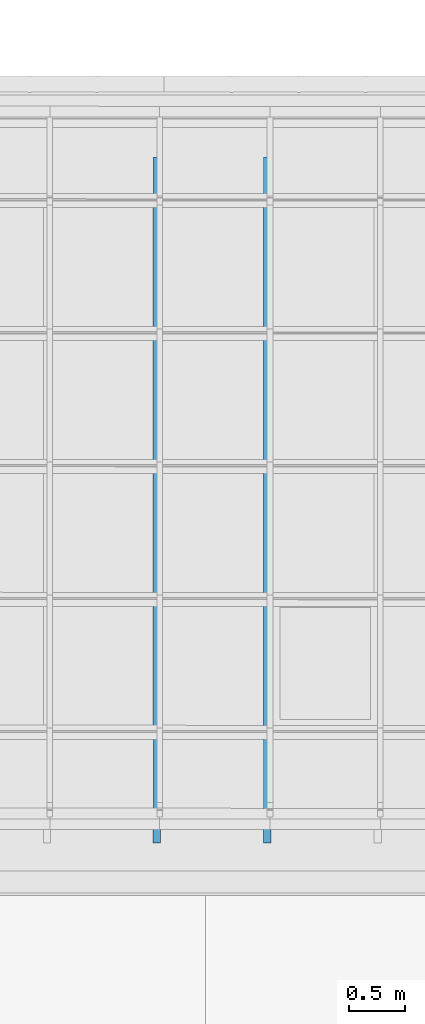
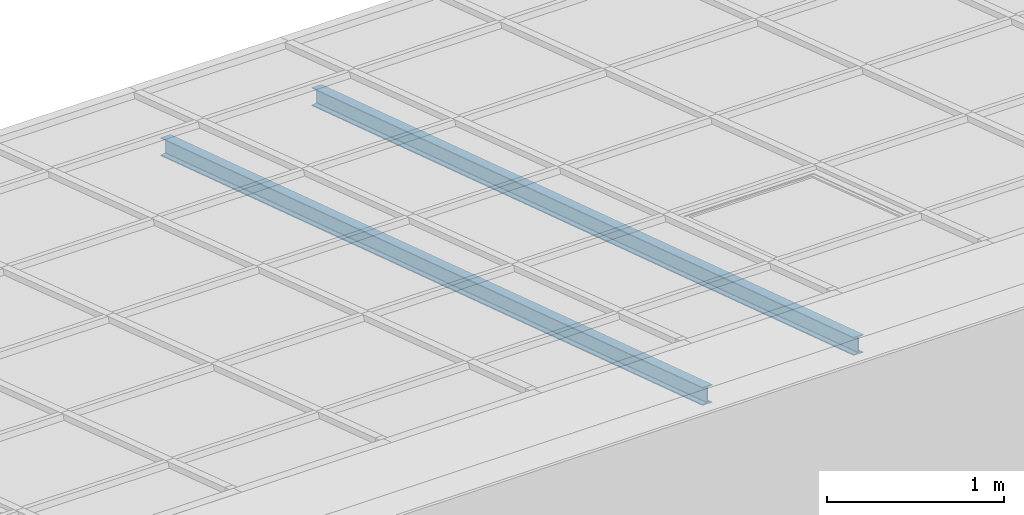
# One storey, part 7 of 47: 2 beams.
"""IFC2X3 building model written with IfcOpenShell, lengths in millimetres."""

from ifc_helpers import new_model, entity, si_unit, converted_unit, derived_unit, money_unit, point, direction, frame, frame_2d, origin_with_axes, place, context, subcontext, project, spatial, polyline, circle_curve, parameter, trimmed, segment, composite_curve, outline, extrude, clip, halfspace, material, type_object, element, save


model = new_model("IFC2X3")

# Units and contexts
model_context = context("Model", 3, precision=1e-05, world=origin_with_axes(), true_north=direction((0.0, 1.0)))
body_context = subcontext(model_context, "Body", "Model", "MODEL_VIEW")
ifc_project = project(units=[si_unit("LENGTHUNIT", "METRE", prefix="MILLI"), si_unit("AREAUNIT", "SQUARE_METRE"), si_unit("VOLUMEUNIT", "CUBIC_METRE"), converted_unit("PLANEANGLEUNIT", "DEGREE", entity("IfcPlaneAngleMeasure", 0.0174532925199), si_unit("PLANEANGLEUNIT", "RADIAN"), dimensions=[0, 0, 0, 0, 0, 0, 0]), si_unit("SOLIDANGLEUNIT", "STERADIAN"), money_unit("EUR"), converted_unit("TIMEUNIT", "Year", entity("IfcTimeMeasure", 31556926.0), si_unit("TIMEUNIT", "SECOND"), dimensions=[0, 0, 1, 0, 0, 0, 0]), si_unit("MASSUNIT", "GRAM", prefix="KILO"), si_unit("THERMODYNAMICTEMPERATUREUNIT", "DEGREE_CELSIUS"), si_unit("LUMINOUSINTENSITYUNIT", "LUMEN"), si_unit("ENERGYUNIT", "JOULE", prefix="MEGA"), derived_unit("THERMALCONDUCTANCEUNIT", [(si_unit("POWERUNIT", "WATT"), 1), (si_unit("LENGTHUNIT", "METRE"), -1), (si_unit("THERMODYNAMICTEMPERATUREUNIT", "KELVIN"), -1)]), derived_unit("SPECIFICHEATCAPACITYUNIT", [(si_unit("ENERGYUNIT", "JOULE"), 1), (si_unit("MASSUNIT", "GRAM", prefix="KILO"), -1), (si_unit("THERMODYNAMICTEMPERATUREUNIT", "KELVIN"), -1)]), derived_unit("MASSDENSITYUNIT", [(si_unit("MASSUNIT", "GRAM", prefix="KILO"), 1), (si_unit("VOLUMEUNIT", "CUBIC_METRE"), -1)])], contexts=[model_context])

# Site, building, storey
site_placement = place(None, origin_with_axes())
site = spatial("IfcSite", under=ifc_project, at=site_placement, Name="Site", CompositionType="ELEMENT")
building_placement = place(site_placement, origin_with_axes())
building = spatial("IfcBuilding", under=site, at=building_placement, Name="Building", CompositionType="ELEMENT")
storey_placement = place(building_placement, frame((0.0, 0.0, 6000.0), z_axis=(0.0, 0.0, 1.0), x_axis=(1.0, 0.0, 0.0)))
storey = spatial("IfcBuildingStorey", under=building, at=storey_placement, Name="KATUSEPLAAN", CompositionType="ELEMENT", Elevation=6000.0)

# Beams
ifc_material = material(Name="Teras (1)")
beam_type = type_object("IfcBeamType", Name="IPE 120", PredefinedType="NOTDEFINED")
beam_1_placement = place(storey_placement, frame((76023.081763, 46947.8063411, 711.763952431), z_axis=(0.0, 0.0, 1.0), x_axis=(-1.0, 0.0, 0.0)))
element("IfcBeam", 1, at=beam_1_placement, inside=storey, type_object=beam_type, material=ifc_material, Name="I Joist - Steel", ObjectType="I Joist - Steel 64 x 120", context=body_context, shape_type="Clipping", body=[
    clip(clip(extrude(outline(composite_curve([segment(polyline([(32.0018479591, -120.000212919), (32.0018479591, -117.505222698)]), True, "CONTINUOUS"), segment(trimmed(circle_curve(frame_2d((27.3321376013, -117.498683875), x_axis=(0.999999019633, -0.00140026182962)), 4.66971493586), [point((32.0018479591, -117.505222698)), parameter(0.0)], [point((31.7461003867, -115.974488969)), parameter(19.1306436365)], True, "CARTESIAN"), True, "CONTINUOUS"), segment(trimmed(circle_curve(frame_2d((27.8471066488, -117.309508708), x_axis=(0.94607823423, 0.323938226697)), 4.12121703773), [point((31.7461003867, -115.974488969)), parameter(0.0)], [point((31.017792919, -114.676795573)), parameter(20.802576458)], True, "CARTESIAN"), True, "CONTINUOUS"), segment(trimmed(circle_curve(frame_2d((28.4090653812, -116.837495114), x_axis=(0.770140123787, 0.637874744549)), 3.38734141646), [point((31.017792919, -114.676795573)), parameter(0.0)], [point((29.9278037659, -113.809704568)), parameter(23.7281511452)], True, "CARTESIAN"), True, "CONTINUOUS"), segment(trimmed(circle_curve(frame_2d((28.6333599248, -116.404648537), x_axis=(0.446378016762, 0.89484449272)), 2.89988259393), [point((29.9278037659, -113.809704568)), parameter(0.0)], [point((29.1110817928, -113.544386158)), parameter(17.0295027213)], True, "CARTESIAN"), True, "CONTINUOUS"), segment(polyline([(29.1110817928, -113.544386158), (5.24260801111, -109.566039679)]), True, "CONTINUOUS"), segment(trimmed(circle_curve(frame_2d((5.72032987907, -106.7057773), x_axis=(-0.446378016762, -0.89484449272)), 2.89988259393), [point((5.24260801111, -109.566039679)), parameter(17.0295027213)], [point((4.42588603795, -109.300721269)), parameter(0.0)], False, "CARTESIAN"), True, "CONTINUOUS"), segment(trimmed(circle_curve(frame_2d((5.94462442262, -106.272930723), x_axis=(-0.770140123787, -0.637874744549)), 3.38734141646), [point((4.42588603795, -109.300721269)), parameter(23.7281511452)], [point((3.33589688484, -108.433630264)), parameter(0.0)], False, "CARTESIAN"), True, "CONTINUOUS"), segment(trimmed(circle_curve(frame_2d((6.5065831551, -105.800917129), x_axis=(-0.94607823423, -0.323938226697)), 4.12121703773), [point((3.33589688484, -108.433630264)), parameter(20.802576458)], [point((2.60758941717, -107.135936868)), parameter(0.0)], False, "CARTESIAN"), True, "CONTINUOUS"), segment(trimmed(circle_curve(frame_2d((7.02155220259, -105.611741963), x_axis=(-0.999999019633, 0.00140026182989)), 4.66971493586), [point((2.60758941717, -107.135936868)), parameter(19.1306436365)], [point((2.35184184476, -105.605203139)), parameter(0.0)], False, "CARTESIAN"), True, "CONTINUOUS"), segment(polyline([(2.35184184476, -105.605203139), (2.35184184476, -14.3950097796)]), True, "CONTINUOUS"), segment(trimmed(circle_curve(frame_2d((7.02155220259, -14.3884709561), x_axis=(-0.945231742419, 0.326399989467)), 4.66971493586), [point((2.35184184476, -14.3950097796)), parameter(19.1306436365)], [point((2.60758941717, -12.8642760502)), parameter(0.0)], False, "CARTESIAN"), True, "CONTINUOUS"), segment(trimmed(circle_curve(frame_2d((6.5065831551, -14.1992957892), x_axis=(-0.769356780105, 0.638819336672)), 4.12121703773), [point((2.60758941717, -12.8642760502)), parameter(20.802576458)], [point((3.33589688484, -11.5665826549)), parameter(0.0)], False, "CARTESIAN"), True, "CONTINUOUS"), segment(trimmed(circle_curve(frame_2d((5.94462442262, -13.7272821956), x_axis=(-0.44835704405, 0.893854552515)), 3.38734141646), [point((3.33589688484, -11.5665826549)), parameter(23.7281511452)], [point((4.42588603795, -10.6994916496)), parameter(0.0)], False, "CARTESIAN"), True, "CONTINUOUS"), segment(trimmed(circle_curve(frame_2d((5.72032987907, -13.2944356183), x_axis=(-0.164738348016, 0.986337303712)), 2.89988259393), [point((4.42588603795, -10.6994916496)), parameter(17.0295027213)], [point((5.24260801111, -10.4341732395)), parameter(0.0)], False, "CARTESIAN"), True, "CONTINUOUS"), segment(polyline([(5.24260801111, -10.4341732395), (29.1110817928, -6.45582676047)]), True, "CONTINUOUS"), segment(trimmed(circle_curve(frame_2d((28.6333599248, -3.59556438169), x_axis=(0.164738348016, -0.986337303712)), 2.89988259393), [point((29.1110817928, -6.45582676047)), parameter(0.0)], [point((29.9278037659, -6.19050835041)), parameter(17.0295027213)], True, "CARTESIAN"), True, "CONTINUOUS"), segment(trimmed(circle_curve(frame_2d((28.4090653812, -3.16271780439), x_axis=(0.44835704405, -0.893854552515)), 3.38734141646), [point((29.9278037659, -6.19050835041)), parameter(0.0)], [point((31.017792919, -5.32341734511)), parameter(23.7281511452)], True, "CARTESIAN"), True, "CONTINUOUS"), segment(trimmed(circle_curve(frame_2d((27.8471066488, -2.69070421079), x_axis=(0.769356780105, -0.638819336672)), 4.12121703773), [point((31.017792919, -5.32341734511)), parameter(0.0)], [point((31.7461003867, -4.02572394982)), parameter(20.802576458)], True, "CARTESIAN"), True, "CONTINUOUS"), segment(trimmed(circle_curve(frame_2d((27.3321376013, -2.50152904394), x_axis=(0.945231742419, -0.326399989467)), 4.66971493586), [point((31.7461003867, -4.02572394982)), parameter(0.0)], [point((32.0018479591, -2.49499022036)), parameter(19.1306436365)], True, "CARTESIAN"), True, "CONTINUOUS"), segment(polyline([(32.0018479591, -2.49499022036), (32.0018479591, 0.0), (-32.0018479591, 0.0), (-32.0018479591, -2.49499022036)]), True, "CONTINUOUS"), segment(trimmed(circle_curve(frame_2d((-27.3321376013, -2.50152904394), x_axis=(-0.999999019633, 0.00140026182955)), 4.66971493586), [point((-32.0018479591, -2.49499022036)), parameter(0.0)], [point((-31.7461003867, -4.02572394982)), parameter(19.1306436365)], True, "CARTESIAN"), True, "CONTINUOUS"), segment(trimmed(circle_curve(frame_2d((-27.8471066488, -2.69070421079), x_axis=(-0.94607823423, -0.323938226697)), 4.12121703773), [point((-31.7461003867, -4.02572394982)), parameter(0.0)], [point((-31.017792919, -5.32341734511)), parameter(20.802576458)], True, "CARTESIAN"), True, "CONTINUOUS"), segment(trimmed(circle_curve(frame_2d((-28.4090653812, -3.16271780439), x_axis=(-0.770140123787, -0.637874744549)), 3.38734141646), [point((-31.017792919, -5.32341734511)), parameter(0.0)], [point((-29.9278037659, -6.19050835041)), parameter(23.7281511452)], True, "CARTESIAN"), True, "CONTINUOUS"), segment(trimmed(circle_curve(frame_2d((-28.6333599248, -3.59556438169), x_axis=(-0.446378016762, -0.89484449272)), 2.89988259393), [point((-29.9278037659, -6.19050835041)), parameter(0.0)], [point((-29.1110817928, -6.45582676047)), parameter(17.0295027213)], True, "CARTESIAN"), True, "CONTINUOUS"), segment(polyline([(-29.1110817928, -6.45582676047), (-5.24260801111, -10.4341732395)]), True, "CONTINUOUS"), segment(trimmed(circle_curve(frame_2d((-5.72032987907, -13.2944356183), x_axis=(0.446378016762, 0.89484449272)), 2.89988259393), [point((-5.24260801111, -10.4341732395)), parameter(17.0295027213)], [point((-4.42588603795, -10.6994916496)), parameter(0.0)], False, "CARTESIAN"), True, "CONTINUOUS"), segment(trimmed(circle_curve(frame_2d((-5.94462442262, -13.7272821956), x_axis=(0.770140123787, 0.637874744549)), 3.38734141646), [point((-4.42588603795, -10.6994916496)), parameter(23.7281511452)], [point((-3.33589688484, -11.5665826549)), parameter(0.0)], False, "CARTESIAN"), True, "CONTINUOUS"), segment(trimmed(circle_curve(frame_2d((-6.5065831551, -14.1992957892), x_axis=(0.94607823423, 0.323938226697)), 4.12121703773), [point((-3.33589688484, -11.5665826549)), parameter(20.802576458)], [point((-2.60758941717, -12.8642760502)), parameter(0.0)], False, "CARTESIAN"), True, "CONTINUOUS"), segment(trimmed(circle_curve(frame_2d((-7.02155220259, -14.3884709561), x_axis=(0.999999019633, -0.00140026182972)), 4.66971493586), [point((-2.60758941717, -12.8642760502)), parameter(19.1306436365)], [point((-2.35184184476, -14.3950097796)), parameter(0.0)], False, "CARTESIAN"), True, "CONTINUOUS"), segment(polyline([(-2.35184184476, -14.3950097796), (-2.35184184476, -105.605203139)]), True, "CONTINUOUS"), segment(trimmed(circle_curve(frame_2d((-7.02155220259, -105.611741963), x_axis=(0.945231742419, -0.326399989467)), 4.66971493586), [point((-2.35184184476, -105.605203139)), parameter(19.1306436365)], [point((-2.60758941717, -107.135936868)), parameter(0.0)], False, "CARTESIAN"), True, "CONTINUOUS"), segment(trimmed(circle_curve(frame_2d((-6.5065831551, -105.800917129), x_axis=(0.769356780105, -0.638819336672)), 4.12121703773), [point((-2.60758941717, -107.135936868)), parameter(20.802576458)], [point((-3.33589688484, -108.433630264)), parameter(0.0)], False, "CARTESIAN"), True, "CONTINUOUS"), segment(trimmed(circle_curve(frame_2d((-5.94462442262, -106.272930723), x_axis=(0.44835704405, -0.893854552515)), 3.38734141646), [point((-3.33589688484, -108.433630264)), parameter(23.7281511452)], [point((-4.42588603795, -109.300721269)), parameter(0.0)], False, "CARTESIAN"), True, "CONTINUOUS"), segment(trimmed(circle_curve(frame_2d((-5.72032987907, -106.7057773), x_axis=(0.164738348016, -0.986337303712)), 2.89988259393), [point((-4.42588603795, -109.300721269)), parameter(17.0295027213)], [point((-5.24260801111, -109.566039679)), parameter(0.0)], False, "CARTESIAN"), True, "CONTINUOUS"), segment(polyline([(-5.24260801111, -109.566039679), (-29.1110817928, -113.544386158)]), True, "CONTINUOUS"), segment(trimmed(circle_curve(frame_2d((-28.6333599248, -116.404648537), x_axis=(-0.164738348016, 0.986337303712)), 2.89988259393), [point((-29.1110817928, -113.544386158)), parameter(0.0)], [point((-29.9278037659, -113.809704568)), parameter(17.0295027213)], True, "CARTESIAN"), True, "CONTINUOUS"), segment(trimmed(circle_curve(frame_2d((-28.4090653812, -116.837495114), x_axis=(-0.44835704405, 0.893854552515)), 3.38734141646), [point((-29.9278037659, -113.809704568)), parameter(0.0)], [point((-31.017792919, -114.676795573)), parameter(23.7281511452)], True, "CARTESIAN"), True, "CONTINUOUS"), segment(trimmed(circle_curve(frame_2d((-27.8471066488, -117.309508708), x_axis=(-0.769356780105, 0.638819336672)), 4.12121703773), [point((-31.017792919, -114.676795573)), parameter(0.0)], [point((-31.7461003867, -115.974488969)), parameter(20.802576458)], True, "CARTESIAN"), True, "CONTINUOUS"), segment(trimmed(circle_curve(frame_2d((-27.3321376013, -117.498683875), x_axis=(-0.945231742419, 0.326399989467)), 4.66971493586), [point((-31.7461003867, -115.974488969)), parameter(0.0)], [point((-32.0018479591, -117.505222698)), parameter(19.1306436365)], True, "CARTESIAN"), True, "CONTINUOUS"), segment(polyline([(-32.0018479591, -117.505222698), (-32.0018479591, -120.000212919), (32.0018479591, -120.000212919)]), True, "CONTINUOUS")], self_intersect=False)), frame((0.0, 6177.44201598, 2007.17258333), z_axis=(0.0, 0.951056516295, 0.309016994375), x_axis=(-1.0, 0.0, 0.0)), (0.0, 0.0, -1.0), 6550.487721), halfspace(frame((0.0, 6125.0, 0.0), z_axis=(0.0, -1.0, 0.0), x_axis=(0.0, 0.0, -1.0)), True)), halfspace(frame((0.0, 0.0, 0.0), z_axis=(0.0, 1.0, 0.0), x_axis=(0.0, 0.0, 1.0)), True)),
])
beam_2_placement = place(storey_placement, frame((77009.081763, 46947.8063411, 711.763952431), z_axis=(0.0, 0.0, 1.0), x_axis=(-1.0, 0.0, 0.0)))
element("IfcBeam", 2, at=beam_2_placement, inside=storey, type_object=beam_type, material=ifc_material, Name="I Joist - Steel", ObjectType="I Joist - Steel 64 x 120", context=body_context, shape_type="Clipping", body=[
    clip(clip(extrude(outline(composite_curve([segment(polyline([(32.0018479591, -120.000212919), (32.0018479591, -117.505222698)]), True, "CONTINUOUS"), segment(trimmed(circle_curve(frame_2d((27.3321376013, -117.498683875), x_axis=(0.999999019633, -0.00140026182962)), 4.66971493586), [point((32.0018479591, -117.505222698)), parameter(0.0)], [point((31.7461003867, -115.974488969)), parameter(19.1306436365)], True, "CARTESIAN"), True, "CONTINUOUS"), segment(trimmed(circle_curve(frame_2d((27.8471066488, -117.309508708), x_axis=(0.94607823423, 0.323938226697)), 4.12121703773), [point((31.7461003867, -115.974488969)), parameter(0.0)], [point((31.017792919, -114.676795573)), parameter(20.802576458)], True, "CARTESIAN"), True, "CONTINUOUS"), segment(trimmed(circle_curve(frame_2d((28.4090653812, -116.837495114), x_axis=(0.770140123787, 0.637874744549)), 3.38734141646), [point((31.017792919, -114.676795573)), parameter(0.0)], [point((29.9278037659, -113.809704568)), parameter(23.7281511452)], True, "CARTESIAN"), True, "CONTINUOUS"), segment(trimmed(circle_curve(frame_2d((28.6333599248, -116.404648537), x_axis=(0.446378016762, 0.89484449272)), 2.89988259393), [point((29.9278037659, -113.809704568)), parameter(0.0)], [point((29.1110817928, -113.544386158)), parameter(17.0295027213)], True, "CARTESIAN"), True, "CONTINUOUS"), segment(polyline([(29.1110817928, -113.544386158), (5.24260801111, -109.566039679)]), True, "CONTINUOUS"), segment(trimmed(circle_curve(frame_2d((5.72032987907, -106.7057773), x_axis=(-0.446378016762, -0.89484449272)), 2.89988259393), [point((5.24260801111, -109.566039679)), parameter(17.0295027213)], [point((4.42588603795, -109.300721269)), parameter(0.0)], False, "CARTESIAN"), True, "CONTINUOUS"), segment(trimmed(circle_curve(frame_2d((5.94462442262, -106.272930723), x_axis=(-0.770140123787, -0.637874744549)), 3.38734141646), [point((4.42588603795, -109.300721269)), parameter(23.7281511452)], [point((3.33589688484, -108.433630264)), parameter(0.0)], False, "CARTESIAN"), True, "CONTINUOUS"), segment(trimmed(circle_curve(frame_2d((6.5065831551, -105.800917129), x_axis=(-0.94607823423, -0.323938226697)), 4.12121703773), [point((3.33589688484, -108.433630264)), parameter(20.802576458)], [point((2.60758941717, -107.135936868)), parameter(0.0)], False, "CARTESIAN"), True, "CONTINUOUS"), segment(trimmed(circle_curve(frame_2d((7.02155220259, -105.611741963), x_axis=(-0.999999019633, 0.00140026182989)), 4.66971493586), [point((2.60758941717, -107.135936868)), parameter(19.1306436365)], [point((2.35184184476, -105.605203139)), parameter(0.0)], False, "CARTESIAN"), True, "CONTINUOUS"), segment(polyline([(2.35184184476, -105.605203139), (2.35184184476, -14.3950097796)]), True, "CONTINUOUS"), segment(trimmed(circle_curve(frame_2d((7.02155220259, -14.3884709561), x_axis=(-0.945231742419, 0.326399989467)), 4.66971493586), [point((2.35184184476, -14.3950097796)), parameter(19.1306436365)], [point((2.60758941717, -12.8642760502)), parameter(0.0)], False, "CARTESIAN"), True, "CONTINUOUS"), segment(trimmed(circle_curve(frame_2d((6.5065831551, -14.1992957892), x_axis=(-0.769356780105, 0.638819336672)), 4.12121703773), [point((2.60758941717, -12.8642760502)), parameter(20.802576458)], [point((3.33589688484, -11.5665826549)), parameter(0.0)], False, "CARTESIAN"), True, "CONTINUOUS"), segment(trimmed(circle_curve(frame_2d((5.94462442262, -13.7272821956), x_axis=(-0.44835704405, 0.893854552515)), 3.38734141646), [point((3.33589688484, -11.5665826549)), parameter(23.7281511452)], [point((4.42588603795, -10.6994916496)), parameter(0.0)], False, "CARTESIAN"), True, "CONTINUOUS"), segment(trimmed(circle_curve(frame_2d((5.72032987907, -13.2944356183), x_axis=(-0.164738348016, 0.986337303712)), 2.89988259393), [point((4.42588603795, -10.6994916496)), parameter(17.0295027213)], [point((5.24260801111, -10.4341732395)), parameter(0.0)], False, "CARTESIAN"), True, "CONTINUOUS"), segment(polyline([(5.24260801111, -10.4341732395), (29.1110817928, -6.45582676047)]), True, "CONTINUOUS"), segment(trimmed(circle_curve(frame_2d((28.6333599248, -3.59556438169), x_axis=(0.164738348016, -0.986337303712)), 2.89988259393), [point((29.1110817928, -6.45582676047)), parameter(0.0)], [point((29.9278037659, -6.19050835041)), parameter(17.0295027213)], True, "CARTESIAN"), True, "CONTINUOUS"), segment(trimmed(circle_curve(frame_2d((28.4090653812, -3.16271780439), x_axis=(0.44835704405, -0.893854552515)), 3.38734141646), [point((29.9278037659, -6.19050835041)), parameter(0.0)], [point((31.017792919, -5.32341734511)), parameter(23.7281511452)], True, "CARTESIAN"), True, "CONTINUOUS"), segment(trimmed(circle_curve(frame_2d((27.8471066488, -2.69070421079), x_axis=(0.769356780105, -0.638819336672)), 4.12121703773), [point((31.017792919, -5.32341734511)), parameter(0.0)], [point((31.7461003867, -4.02572394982)), parameter(20.802576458)], True, "CARTESIAN"), True, "CONTINUOUS"), segment(trimmed(circle_curve(frame_2d((27.3321376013, -2.50152904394), x_axis=(0.945231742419, -0.326399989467)), 4.66971493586), [point((31.7461003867, -4.02572394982)), parameter(0.0)], [point((32.0018479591, -2.49499022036)), parameter(19.1306436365)], True, "CARTESIAN"), True, "CONTINUOUS"), segment(polyline([(32.0018479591, -2.49499022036), (32.0018479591, 0.0), (-32.0018479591, 0.0), (-32.0018479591, -2.49499022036)]), True, "CONTINUOUS"), segment(trimmed(circle_curve(frame_2d((-27.3321376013, -2.50152904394), x_axis=(-0.999999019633, 0.00140026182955)), 4.66971493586), [point((-32.0018479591, -2.49499022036)), parameter(0.0)], [point((-31.7461003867, -4.02572394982)), parameter(19.1306436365)], True, "CARTESIAN"), True, "CONTINUOUS"), segment(trimmed(circle_curve(frame_2d((-27.8471066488, -2.69070421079), x_axis=(-0.94607823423, -0.323938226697)), 4.12121703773), [point((-31.7461003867, -4.02572394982)), parameter(0.0)], [point((-31.017792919, -5.32341734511)), parameter(20.802576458)], True, "CARTESIAN"), True, "CONTINUOUS"), segment(trimmed(circle_curve(frame_2d((-28.4090653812, -3.16271780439), x_axis=(-0.770140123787, -0.637874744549)), 3.38734141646), [point((-31.017792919, -5.32341734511)), parameter(0.0)], [point((-29.9278037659, -6.19050835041)), parameter(23.7281511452)], True, "CARTESIAN"), True, "CONTINUOUS"), segment(trimmed(circle_curve(frame_2d((-28.6333599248, -3.59556438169), x_axis=(-0.446378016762, -0.89484449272)), 2.89988259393), [point((-29.9278037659, -6.19050835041)), parameter(0.0)], [point((-29.1110817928, -6.45582676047)), parameter(17.0295027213)], True, "CARTESIAN"), True, "CONTINUOUS"), segment(polyline([(-29.1110817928, -6.45582676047), (-5.24260801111, -10.4341732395)]), True, "CONTINUOUS"), segment(trimmed(circle_curve(frame_2d((-5.72032987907, -13.2944356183), x_axis=(0.446378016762, 0.89484449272)), 2.89988259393), [point((-5.24260801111, -10.4341732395)), parameter(17.0295027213)], [point((-4.42588603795, -10.6994916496)), parameter(0.0)], False, "CARTESIAN"), True, "CONTINUOUS"), segment(trimmed(circle_curve(frame_2d((-5.94462442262, -13.7272821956), x_axis=(0.770140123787, 0.637874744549)), 3.38734141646), [point((-4.42588603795, -10.6994916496)), parameter(23.7281511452)], [point((-3.33589688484, -11.5665826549)), parameter(0.0)], False, "CARTESIAN"), True, "CONTINUOUS"), segment(trimmed(circle_curve(frame_2d((-6.5065831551, -14.1992957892), x_axis=(0.94607823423, 0.323938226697)), 4.12121703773), [point((-3.33589688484, -11.5665826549)), parameter(20.802576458)], [point((-2.60758941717, -12.8642760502)), parameter(0.0)], False, "CARTESIAN"), True, "CONTINUOUS"), segment(trimmed(circle_curve(frame_2d((-7.02155220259, -14.3884709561), x_axis=(0.999999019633, -0.00140026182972)), 4.66971493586), [point((-2.60758941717, -12.8642760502)), parameter(19.1306436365)], [point((-2.35184184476, -14.3950097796)), parameter(0.0)], False, "CARTESIAN"), True, "CONTINUOUS"), segment(polyline([(-2.35184184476, -14.3950097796), (-2.35184184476, -105.605203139)]), True, "CONTINUOUS"), segment(trimmed(circle_curve(frame_2d((-7.02155220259, -105.611741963), x_axis=(0.945231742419, -0.326399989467)), 4.66971493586), [point((-2.35184184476, -105.605203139)), parameter(19.1306436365)], [point((-2.60758941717, -107.135936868)), parameter(0.0)], False, "CARTESIAN"), True, "CONTINUOUS"), segment(trimmed(circle_curve(frame_2d((-6.5065831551, -105.800917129), x_axis=(0.769356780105, -0.638819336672)), 4.12121703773), [point((-2.60758941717, -107.135936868)), parameter(20.802576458)], [point((-3.33589688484, -108.433630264)), parameter(0.0)], False, "CARTESIAN"), True, "CONTINUOUS"), segment(trimmed(circle_curve(frame_2d((-5.94462442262, -106.272930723), x_axis=(0.44835704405, -0.893854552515)), 3.38734141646), [point((-3.33589688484, -108.433630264)), parameter(23.7281511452)], [point((-4.42588603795, -109.300721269)), parameter(0.0)], False, "CARTESIAN"), True, "CONTINUOUS"), segment(trimmed(circle_curve(frame_2d((-5.72032987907, -106.7057773), x_axis=(0.164738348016, -0.986337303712)), 2.89988259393), [point((-4.42588603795, -109.300721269)), parameter(17.0295027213)], [point((-5.24260801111, -109.566039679)), parameter(0.0)], False, "CARTESIAN"), True, "CONTINUOUS"), segment(polyline([(-5.24260801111, -109.566039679), (-29.1110817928, -113.544386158)]), True, "CONTINUOUS"), segment(trimmed(circle_curve(frame_2d((-28.6333599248, -116.404648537), x_axis=(-0.164738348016, 0.986337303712)), 2.89988259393), [point((-29.1110817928, -113.544386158)), parameter(0.0)], [point((-29.9278037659, -113.809704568)), parameter(17.0295027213)], True, "CARTESIAN"), True, "CONTINUOUS"), segment(trimmed(circle_curve(frame_2d((-28.4090653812, -116.837495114), x_axis=(-0.44835704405, 0.893854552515)), 3.38734141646), [point((-29.9278037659, -113.809704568)), parameter(0.0)], [point((-31.017792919, -114.676795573)), parameter(23.7281511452)], True, "CARTESIAN"), True, "CONTINUOUS"), segment(trimmed(circle_curve(frame_2d((-27.8471066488, -117.309508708), x_axis=(-0.769356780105, 0.638819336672)), 4.12121703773), [point((-31.017792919, -114.676795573)), parameter(0.0)], [point((-31.7461003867, -115.974488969)), parameter(20.802576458)], True, "CARTESIAN"), True, "CONTINUOUS"), segment(trimmed(circle_curve(frame_2d((-27.3321376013, -117.498683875), x_axis=(-0.945231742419, 0.326399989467)), 4.66971493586), [point((-31.7461003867, -115.974488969)), parameter(0.0)], [point((-32.0018479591, -117.505222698)), parameter(19.1306436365)], True, "CARTESIAN"), True, "CONTINUOUS"), segment(polyline([(-32.0018479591, -117.505222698), (-32.0018479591, -120.000212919), (32.0018479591, -120.000212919)]), True, "CONTINUOUS")], self_intersect=False)), frame((0.0, 6177.44201598, 2007.17258333), z_axis=(0.0, 0.951056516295, 0.309016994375), x_axis=(-1.0, 0.0, 0.0)), (0.0, 0.0, -1.0), 6550.487721), halfspace(frame((0.0, 6125.0, 0.0), z_axis=(0.0, -1.0, 0.0), x_axis=(0.0, 0.0, -1.0)), True)), halfspace(frame((0.0, 0.0, 0.0), z_axis=(0.0, 1.0, 0.0), x_axis=(0.0, 0.0, 1.0)), True)),
])

save(model, "model.ifc")
